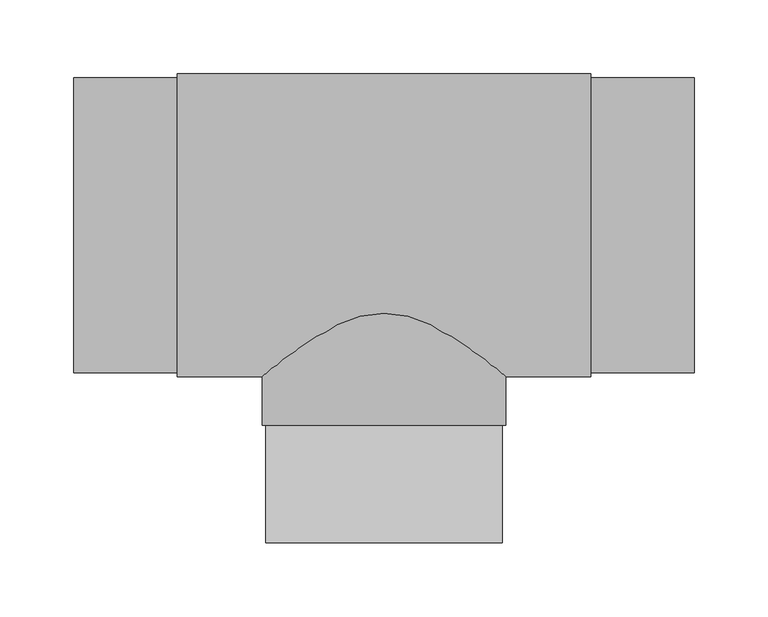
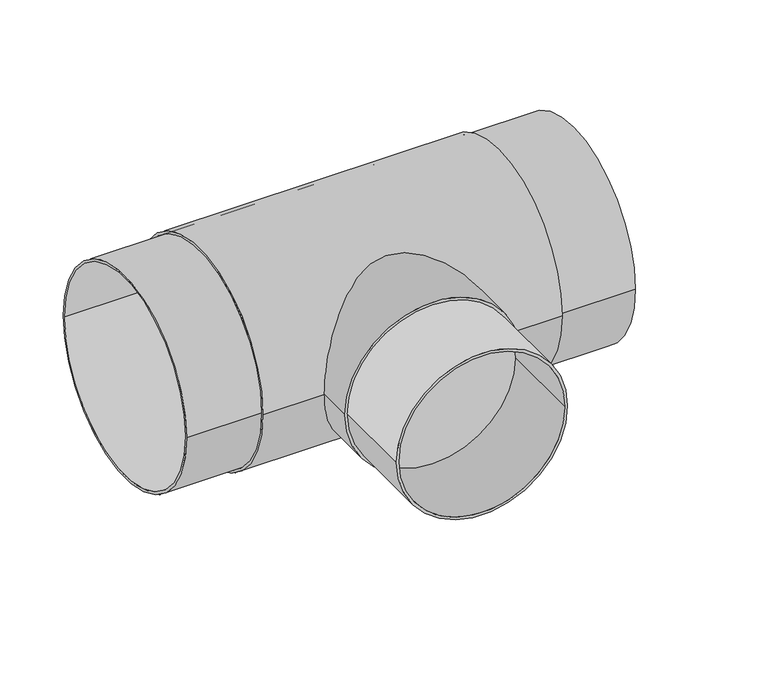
"""IFC4 building model written with IfcOpenShell, lengths in millimetres: pipe fitting geometry, EGB_VASEN_ PPR_Te a tope WXRB300_Te reducida a tope WXRB310 : Te a tope."""

from ifc_helpers import new_model, si_unit, point, frame, origin, origin_2d, place, context, project, spatial, circle_curve, trimmed, segment, composite_curve, outline, extrude, source, transform, mapped, element, save


def pipe_fitting_8d1f13c1(model_context):
    return source(origin(), model_context, "Body", "SweptSolid", [
        extrude(outline(composite_curve([segment(trimmed(circle_curve(origin_2d(), 80.0), [point((0.0, 80.0))], [point((0.0, -80.0))], False, "CARTESIAN"), True, "CONTINUOUS"), segment(trimmed(circle_curve(origin_2d(), 80.0), [point((0.0, -80.0))], [point((0.0, 80.0))], False, "CARTESIAN"), True, "CONTINUOUS")], self_intersect=False), holes=[composite_curve([segment(trimmed(circle_curve(origin_2d(), 77.5), [point((0.0, 77.5))], [point((0.0, -77.5))], True, "CARTESIAN"), True, "CONTINUOUS"), segment(trimmed(circle_curve(origin_2d(), 77.5), [point((0.0, -77.5))], [point((0.0, 77.5))], True, "CARTESIAN"), True, "CONTINUOUS")], self_intersect=False)]), frame((0.0, -215.0, 0.0), z_axis=(0.0, 1.0, 0.0), x_axis=(0.0, 0.0, 1.0)), (0.0, 0.0, 1.0), 79.5),
        extrude(outline(composite_curve([segment(trimmed(circle_curve(origin_2d(), 82.5), [point((0.0, 82.5))], [point((0.0, -82.5))], False, "CARTESIAN"), True, "CONTINUOUS"), segment(trimmed(circle_curve(origin_2d(), 82.5), [point((0.0, -82.5))], [point((0.0, 82.5))], False, "CARTESIAN"), True, "CONTINUOUS")], self_intersect=False)), frame((0.0, -135.5, 0.0), z_axis=(0.0, 1.0, 0.0), x_axis=(0.0, 0.0, 1.0)), (0.0, 0.0, 1.0), 135.5),
        extrude(outline(composite_curve([segment(trimmed(circle_curve(origin_2d(), 102.5), [point((-102.5, 0.0))], [point((102.5, 0.0))], False, "CARTESIAN"), True, "CONTINUOUS"), segment(trimmed(circle_curve(origin_2d(), 102.5), [point((102.5, 0.0))], [point((-102.5, 0.0))], False, "CARTESIAN"), True, "CONTINUOUS")], self_intersect=False), holes=[composite_curve([segment(trimmed(circle_curve(origin_2d(), 100.0), [point((-100.0, 0.0))], [point((100.0, 0.0))], True, "CARTESIAN"), True, "CONTINUOUS"), segment(trimmed(circle_curve(origin_2d(), 100.0), [point((100.0, 0.0))], [point((-100.0, 0.0))], True, "CARTESIAN"), True, "CONTINUOUS")], self_intersect=False)]), frame((-140.0, 0.0, 0.0), z_axis=(1.0, 0.0, 0.0), x_axis=(0.0, 1.0, 0.0)), (0.0, 0.0, 1.0), 280.0),
        extrude(outline(composite_curve([segment(trimmed(circle_curve(origin_2d(), 100.0), [point((-100.0, 0.0))], [point((100.0, 0.0))], False, "CARTESIAN"), True, "CONTINUOUS"), segment(trimmed(circle_curve(origin_2d(), 100.0), [point((100.0, 0.0))], [point((-100.0, 0.0))], False, "CARTESIAN"), True, "CONTINUOUS")], self_intersect=False), holes=[composite_curve([segment(trimmed(circle_curve(origin_2d(), 97.5), [point((-97.5, 0.0))], [point((97.5, 0.0))], True, "CARTESIAN"), True, "CONTINUOUS"), segment(trimmed(circle_curve(origin_2d(), 97.5), [point((97.5, 0.0))], [point((-97.5, 0.0))], True, "CARTESIAN"), True, "CONTINUOUS")], self_intersect=False)]), frame((-210.0, 0.0, 0.0), z_axis=(1.0, 0.0, 0.0), x_axis=(0.0, 1.0, 0.0)), (0.0, 0.0, 1.0), 420.0),
    ])


if __name__ == "__main__":
    model = new_model("IFC4")
    model_context = context("Model", 3, world=origin())
    ifc_project = project(units=[si_unit("LENGTHUNIT", "METRE", prefix="MILLI")], contexts=[model_context])
    site = spatial("IfcSite", under=ifc_project)
    building = spatial("IfcBuilding", under=site)
    placement = place(None, origin())
    pipe_fitting_shape = pipe_fitting_8d1f13c1(model_context)
    element("IfcPipeFitting", 1, ObjectType="EGB_VASEN_ PPR_Te a tope WXRB300_Te reducida a tope WXRB310 : Te a tope", at=placement, inside=building, context=model_context, shape_type="MappedRepresentation", body=[
        mapped(pipe_fitting_shape, transform((0.0, 0.0, 0.0), x_axis=(1.0, 0.0, 0.0), y_axis=(0.0, 1.0, 0.0), z_axis=(0.0, 0.0, 1.0))),
    ])
    save(model, "model.ifc")
